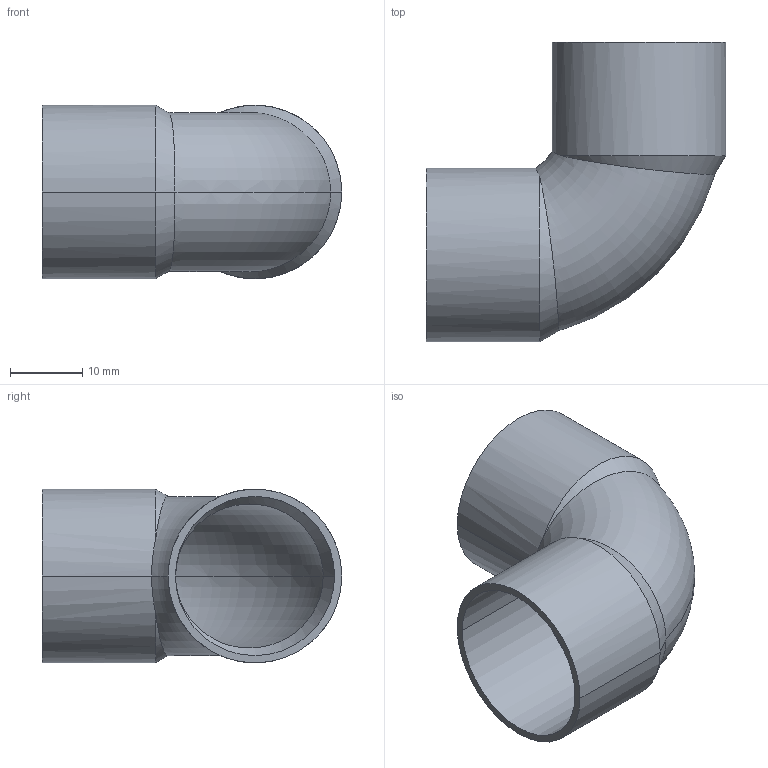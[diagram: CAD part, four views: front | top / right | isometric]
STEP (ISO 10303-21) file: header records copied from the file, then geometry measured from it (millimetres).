
FILE_DESCRIPTION((''),'2;1');
FILE_NAME('G:\SANHA-TERNAT\Technik\Deckel\UUU\Producttek\1509022\1509022(0).stp','2007-07-24T11:55:53',('vdvijverd'),(''),'Autodesk Inventor 8','Autodesk Inventor 8','');
FILE_SCHEMA(('AUTOMOTIVE_DESIGN { 1 0 10303 214 1 1 1 1 }'));
Length unit declared in the file: millimetre
Products named in the file (1): 1509022(0)
Bounding box: 41.4 x 41.4 x 24 mm (x, y, z)
Volume: 3662.4 mm3; surface area: 7357.8 mm2
Topology: 1 solids, 1 shells, 22 faces, 48 edges, 28 vertices
Faces by surface type: bspline 9, torus 4, cone 4, cylinder 4, plane 1
Entity records: 873 total; most frequent: CARTESIAN_POINT 406, ORIENTED_EDGE 96, DIRECTION 86, EDGE_CURVE 48, AXIS2_PLACEMENT_3D 36, VERTEX_POINT 28, EDGE_LOOP 24, CIRCLE 22
